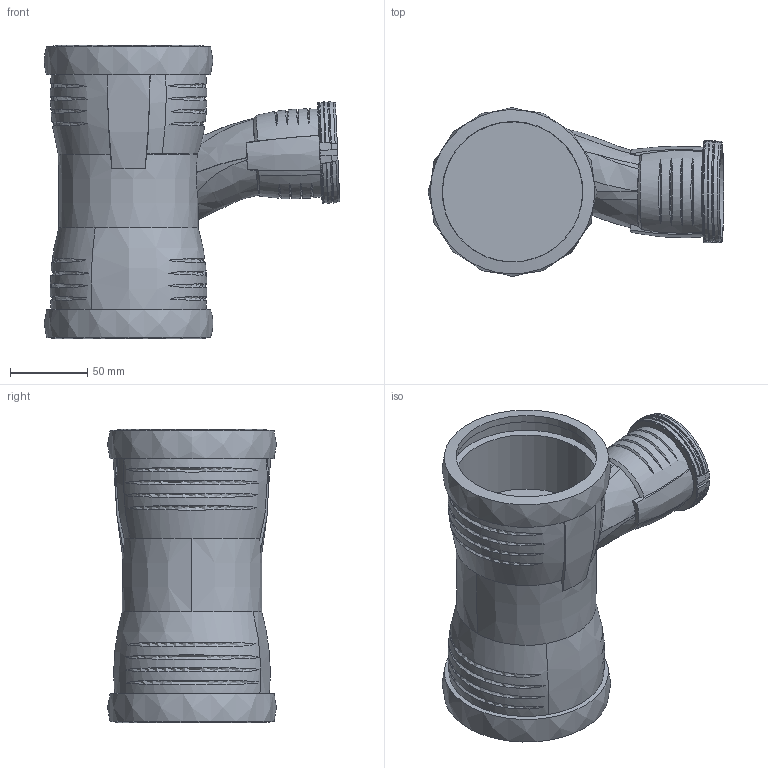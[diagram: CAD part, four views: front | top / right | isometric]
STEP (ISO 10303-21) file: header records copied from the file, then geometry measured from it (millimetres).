
FILE_DESCRIPTION(/* description */ (''),/* implementation_level */ '2;1');
FILE_NAME(/* name */ 'C:\Planerdaten\Export PLA\393.446.14.1\stp\393446.stp',/* time_stamp */ '2022-09-16T14:46:18+02:00',/* author */ ('JANAN'),/* organization */ (''),/* preprocessor_version */ 'ST-DEVELOPER v18.1',/* originating_system */ 'Autodesk Inventor 2021',/* authorisation */ '');
FILE_SCHEMA (('AUTOMOTIVE_DESIGN { 1 0 10303 214 3 1 1 }'));
Length unit declared in the file: millimetre
Products named in the file (1): tmp146E.tmp
Bounding box: 191.83 x 109.5 x 190.21 mm (x, y, z)
Volume: 815603 mm3; surface area: 146342.9 mm2
Topology: 1 solids, 1 shells, 176 faces, 471 edges, 312 vertices
Faces by surface type: bspline 113, cone 32, cylinder 19, plane 8, torus 4
Full cylindrical faces by diameter (mm): 50.7 x1, 60.1 x1, 90.9 x2, 91.2 x2, 100.2 x2
Entity records: 27962 total; most frequent: CARTESIAN_POINT 24047, ORIENTED_EDGE 916, DIRECTION 547, EDGE_CURVE 458, VERTEX_POINT 312, AXIS2_PLACEMENT_3D 251, B_SPLINE_CURVE_WITH_KNOTS 222, EDGE_LOOP 204
